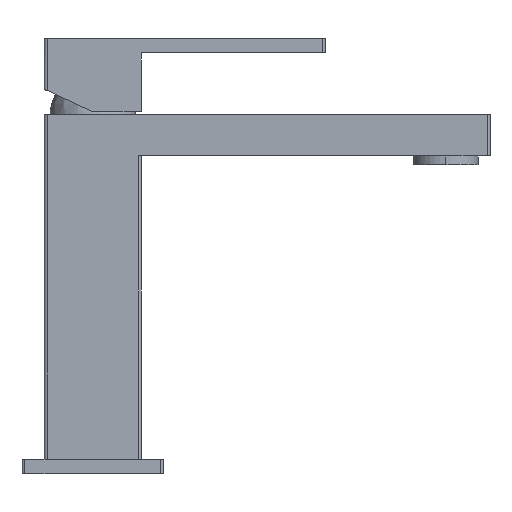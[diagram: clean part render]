
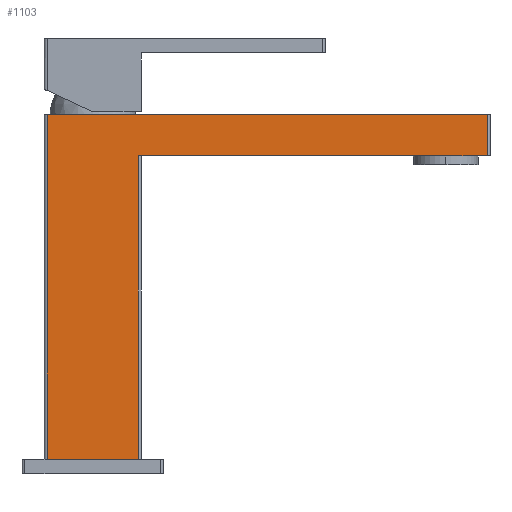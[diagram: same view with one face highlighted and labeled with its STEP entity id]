
A CAD part, left-side view. The second image highlights one B-rep face of the part: STEP entity #1103.
In plain terms, the highlighted planar face has unit normal (-1, 0, 0).
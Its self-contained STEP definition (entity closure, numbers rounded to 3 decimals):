
#944 = VERTEX_POINT('',#945);
#945 = CARTESIAN_POINT('',(-16.5,15.5,122.));
#952 = EDGE_CURVE('',#944,#953,#955,.T.);
#953 = VERTEX_POINT('',#954);
#954 = CARTESIAN_POINT('',(-16.5,-134.,122.));
#955 = LINE('',#956,#957);
#956 = CARTESIAN_POINT('',(-16.5,15.5,122.));
#957 = VECTOR('',#958,1.);
#958 = DIRECTION('',(0.,-1.,0.));
#1046 = VERTEX_POINT('',#1047);
#1047 = CARTESIAN_POINT('',(-16.5,-15.5,5.));
#1054 = EDGE_CURVE('',#1046,#1055,#1057,.T.);
#1055 = VERTEX_POINT('',#1056);
#1056 = CARTESIAN_POINT('',(-16.5,15.5,
    5.));
#1057 = LINE('',#1058,#1059);
#1058 = CARTESIAN_POINT('',(-16.5,-15.5,5.));
#1059 = VECTOR('',#1060,1.);
#1060 = DIRECTION('',(0.,1.,0.));
#1103 = ADVANCED_FACE('',(#1104),#1136,.T.);
#1104 = FACE_BOUND('',#1105,.T.);
#1105 = EDGE_LOOP('',(#1106,#1107,#1115,#1123,#1129,#1130));
#1106 = ORIENTED_EDGE('',*,*,#1054,.F.);
#1107 = ORIENTED_EDGE('',*,*,#1108,.T.);
#1108 = EDGE_CURVE('',#1046,#1109,#1111,.T.);
#1109 = VERTEX_POINT('',#1110);
#1110 = CARTESIAN_POINT('',(-16.5,-15.5,108.));
#1111 = LINE('',#1112,#1113);
#1112 = CARTESIAN_POINT('',(-16.5,-15.5,108.));
#1113 = VECTOR('',#1114,1.);
#1114 = DIRECTION('',(0.,0.,1.));
#1115 = ORIENTED_EDGE('',*,*,#1116,.T.);
#1116 = EDGE_CURVE('',#1109,#1117,#1119,.T.);
#1117 = VERTEX_POINT('',#1118);
#1118 = CARTESIAN_POINT('',(-16.5,-134.,108.));
#1119 = LINE('',#1120,#1121);
#1120 = CARTESIAN_POINT('',(-16.5,-134.,108.));
#1121 = VECTOR('',#1122,1.);
#1122 = DIRECTION('',(0.,-1.,0.));
#1123 = ORIENTED_EDGE('',*,*,#1124,.T.);
#1124 = EDGE_CURVE('',#1117,#953,#1125,.T.);
#1125 = LINE('',#1126,#1127);
#1126 = CARTESIAN_POINT('',(-16.5,-134.,122.));
#1127 = VECTOR('',#1128,1.);
#1128 = DIRECTION('',(0.,0.,1.));
#1129 = ORIENTED_EDGE('',*,*,#952,.F.);
#1130 = ORIENTED_EDGE('',*,*,#1131,.T.);
#1131 = EDGE_CURVE('',#944,#1055,#1132,.T.);
#1132 = LINE('',#1133,#1134);
#1133 = CARTESIAN_POINT('',(-16.5,15.5,122.));
#1134 = VECTOR('',#1135,1.);
#1135 = DIRECTION('',(0.,0.,-1.));
#1136 = PLANE('',#1137);
#1137 = AXIS2_PLACEMENT_3D('',#1138,#1139,#1140);
#1138 = CARTESIAN_POINT('',(-16.5,15.5,122.));
#1139 = DIRECTION('',(-1.,0.,0.));
#1140 = DIRECTION('',(0.,0.,-1.));
